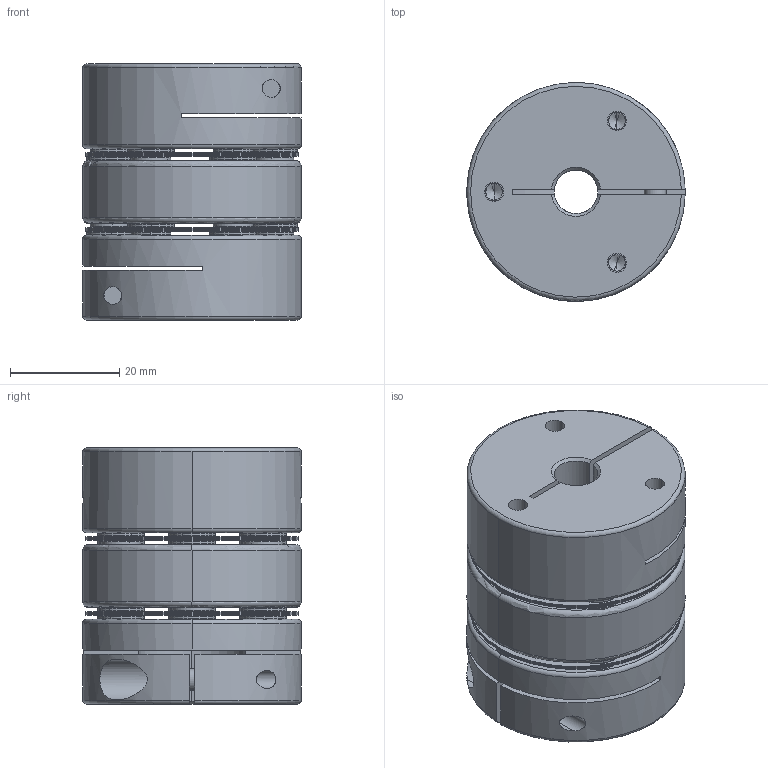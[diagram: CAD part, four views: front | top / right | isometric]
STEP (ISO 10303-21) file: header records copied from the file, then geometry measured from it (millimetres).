
FILE_DESCRIPTION (( 'STEP AP203' ), '1' );
FILE_NAME ('SADW-40C.STEP', '2020-09-10T09:45:19', ( '' ), ( '' ), 'SwSTEP 2.0', 'SolidWorks 2017', '' );
FILE_SCHEMA (( 'CONFIG_CONTROL_DESIGN' ));
Length unit declared in the file: metre
Products named in the file (1): SADW-40C
Bounding box: 40 x 40 x 46.9 mm (x, y, z)
Volume: 42273.8 mm3; surface area: 38613.3 mm2
Topology: 49 solids, 49 shells, 1136 faces, 2532 edges, 1494 vertices
Faces by surface type: cylinder 409, plane 314, cone 217, torus 190, bspline 6
Entity records: 32986 total; most frequent: CARTESIAN_POINT 6563, DIRECTION 6157, ORIENTED_EDGE 4992, AXIS2_PLACEMENT_3D 2582, EDGE_CURVE 2496, VERTEX_POINT 1494, CIRCLE 1451, EDGE_LOOP 1382
